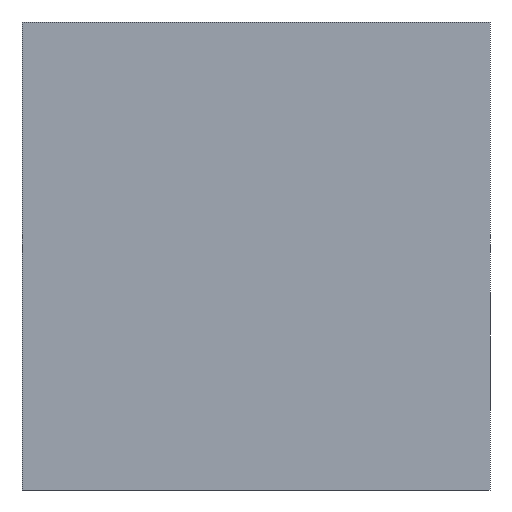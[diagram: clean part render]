
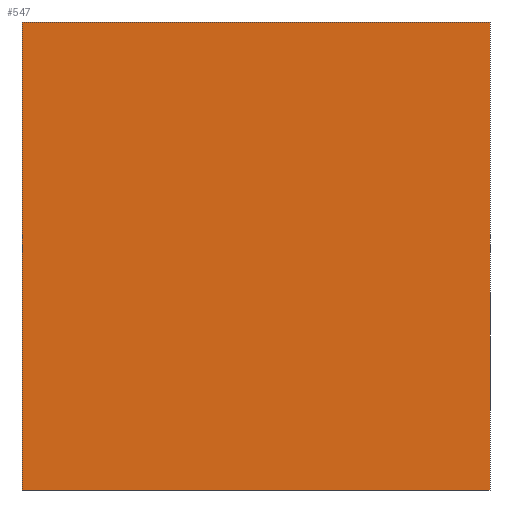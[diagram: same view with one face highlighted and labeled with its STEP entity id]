
A CAD part, left-side view. The second image highlights one B-rep face of the part: STEP entity #547.
In plain terms, the highlighted planar face has unit normal (-1, 0, 0).
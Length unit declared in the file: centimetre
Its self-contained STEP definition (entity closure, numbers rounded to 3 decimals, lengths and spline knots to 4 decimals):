
#1 = CARTESIAN_POINT ( 'NONE',  ( 0., 1000., 0. ) ) ;
#84 = DIRECTION ( 'NONE',  ( 0., -1., 0. ) ) ;
#108 = CARTESIAN_POINT ( 'NONE',  ( 0., 0., 0. ) ) ;
#123 = CARTESIAN_POINT ( 'NONE',  ( 0., 1000., 1000. ) ) ;
#134 = LINE ( 'NONE', #661, #825 ) ;
#141 = CARTESIAN_POINT ( 'NONE',  ( 0., 0., 1000. ) ) ;
#158 = DIRECTION ( 'NONE',  ( 0., 0., -1. ) ) ;
#160 = EDGE_CURVE ( 'NONE', #568, #167, #311, .T. ) ;
#167 = VERTEX_POINT ( 'NONE', #108 ) ;
#176 = CARTESIAN_POINT ( 'NONE',  ( 0., 0., 1000. ) ) ;
#204 = EDGE_CURVE ( 'NONE', #554, #167, #624, .T. ) ;
#230 = EDGE_CURVE ( 'NONE', #524, #554, #739, .T. ) ;
#255 = ORIENTED_EDGE ( 'NONE', *, *, #522, .F. ) ;
#276 = CARTESIAN_POINT ( 'NONE',  ( 0., 1000., 0. ) ) ;
#311 = LINE ( 'NONE', #176, #790 ) ;
#325 = DIRECTION ( 'NONE',  ( 0., -1., 0. ) ) ;
#331 = FACE_OUTER_BOUND ( 'NONE', #378, .T. ) ;
#369 = VECTOR ( 'NONE', #84, 100. ) ;
#370 = AXIS2_PLACEMENT_3D ( 'NONE', #584, #786, #794 ) ;
#378 = EDGE_LOOP ( 'NONE', ( #625, #680, #255, #785 ) ) ;
#438 = DIRECTION ( 'NONE',  ( 0., 0., -1. ) ) ;
#522 = EDGE_CURVE ( 'NONE', #524, #568, #134, .T. ) ;
#523 = PLANE ( 'NONE',  #370 ) ;
#524 = VERTEX_POINT ( 'NONE', #123 ) ;
#547 = ADVANCED_FACE ( 'NONE', ( #331 ), #523, .F. ) ;
#554 = VERTEX_POINT ( 'NONE', #1 ) ;
#568 = VERTEX_POINT ( 'NONE', #141 ) ;
#584 = CARTESIAN_POINT ( 'NONE',  ( 0., 1000., 1000. ) ) ;
#624 = LINE ( 'NONE', #276, #369 ) ;
#625 = ORIENTED_EDGE ( 'NONE', *, *, #204, .T. ) ;
#661 = CARTESIAN_POINT ( 'NONE',  ( 0., 1000., 1000. ) ) ;
#680 = ORIENTED_EDGE ( 'NONE', *, *, #160, .F. ) ;
#699 = VECTOR ( 'NONE', #158, 100. ) ;
#739 = LINE ( 'NONE', #804, #699 ) ;
#785 = ORIENTED_EDGE ( 'NONE', *, *, #230, .T. ) ;
#786 = DIRECTION ( 'NONE',  ( 1., 0., 0. ) ) ;
#790 = VECTOR ( 'NONE', #438, 100. ) ;
#794 = DIRECTION ( 'NONE',  ( 0., 0., -1. ) ) ;
#804 = CARTESIAN_POINT ( 'NONE',  ( 0., 1000., 1000. ) ) ;
#825 = VECTOR ( 'NONE', #325, 100. ) ;
